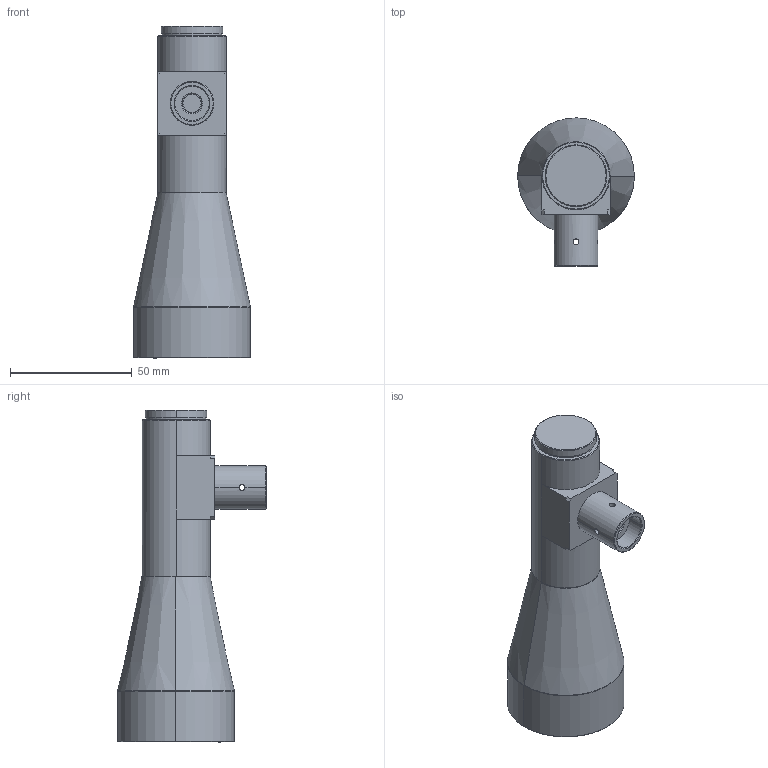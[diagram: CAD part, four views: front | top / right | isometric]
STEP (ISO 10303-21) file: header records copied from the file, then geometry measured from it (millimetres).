
FILE_DESCRIPTION (( 'STEP AP203' ), '1' );
FILE_NAME ('WWH03-110CTV3.STEP', '2023-12-06T09:00:41', ( '' ), ( '' ), 'SwSTEP 2.0', 'SolidWorks 2017', '' );
FILE_SCHEMA (( 'CONFIG_CONTROL_DESIGN' ));
Length unit declared in the file: millimetre
Products named in the file (1): WWH03-110CTV3
Bounding box: 48 x 61.1 x 136.49 mm (x, y, z)
Volume: 140901.4 mm3; surface area: 19997.2 mm2
Topology: 1 solids, 1 shells, 70 faces, 170 edges, 106 vertices
Faces by surface type: cylinder 27, plane 23, cone 16, torus 4
Entity records: 2381 total; most frequent: CARTESIAN_POINT 641, DIRECTION 352, ORIENTED_EDGE 340, EDGE_CURVE 170, AXIS2_PLACEMENT_3D 135, VERTEX_POINT 106, VECTOR 82, LINE 82
